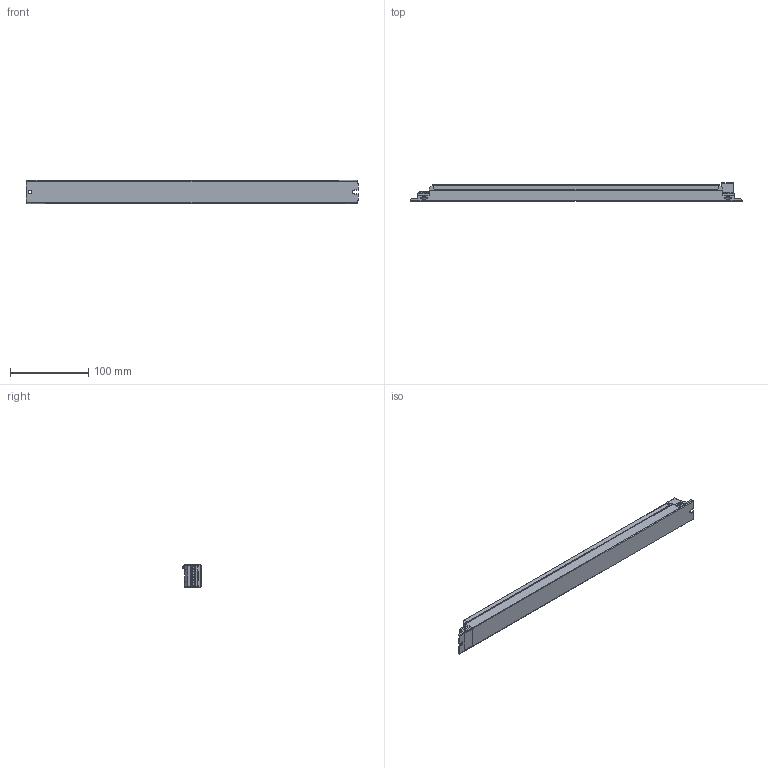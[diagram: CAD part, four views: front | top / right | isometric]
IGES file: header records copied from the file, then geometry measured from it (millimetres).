
Start section: SolidWorks IGES file using analytic representation for surfaces
Global section: file name: D:\ECTR_TEMP\OLQ-batchEngine\queue\temp\4177157swm000.igs; native system: SolidWorks 2017; preprocessor: SolidWorks 2017; author: SYSTEM; date: 191217.093709; units: millimetre
Bounding box: 424 x 23.05 x 30 mm (x, y, z)
Surface area: 48716.6 mm2 (no closed solid volume)
Topology: 0 solids, 0 shells, 782 faces, 7172 edges, 7172 vertices
Faces by surface type: bspline 503, revolution 279
